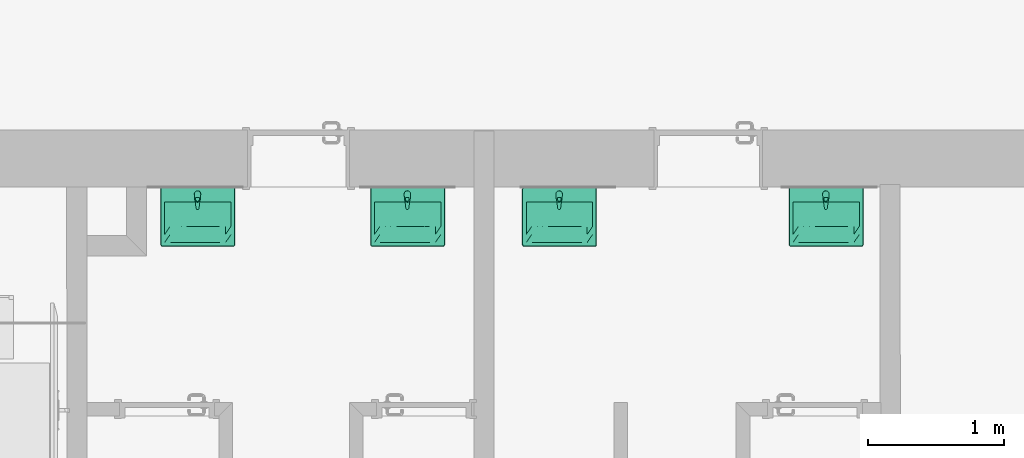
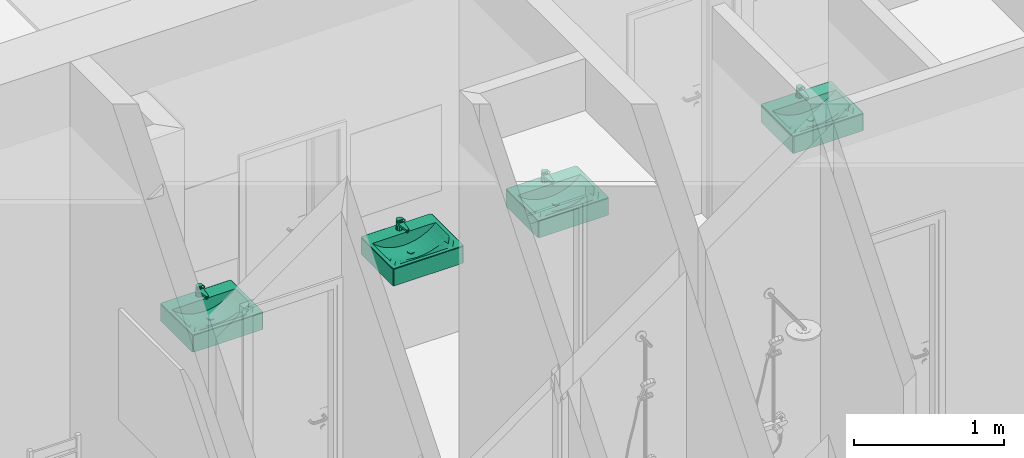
# One storey, part 119 of 194: 8 flow terminals.
"""IFC2X3 building model written with IfcOpenShell, lengths in millimetres."""

from ifc_helpers import new_model, entity, si_unit, converted_unit, derived_unit, money_unit, direction, frame, origin_with_axes, place, context, subcontext, project, spatial, open_shell, faceted_brep, surface_model, source, transform, mapped, type_object, element, save


model = new_model("IFC2X3")

# Units and contexts
model_context = context("Model", 3, precision=1e-05, world=origin_with_axes(), true_north=direction((0.0, 1.0)))
body_context = subcontext(model_context, "Body", "Model", "MODEL_VIEW")
ifc_project = project(units=[si_unit("LENGTHUNIT", "METRE", prefix="MILLI"), si_unit("AREAUNIT", "SQUARE_METRE"), si_unit("VOLUMEUNIT", "CUBIC_METRE"), converted_unit("PLANEANGLEUNIT", "DEGREE", entity("IfcPlaneAngleMeasure", 0.0174532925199), si_unit("PLANEANGLEUNIT", "RADIAN"), dimensions=[0, 0, 0, 0, 0, 0, 0]), si_unit("SOLIDANGLEUNIT", "STERADIAN"), money_unit("EUR"), converted_unit("TIMEUNIT", "Year", entity("IfcTimeMeasure", 31556926.0), si_unit("TIMEUNIT", "SECOND"), dimensions=[0, 0, 1, 0, 0, 0, 0]), si_unit("MASSUNIT", "GRAM", prefix="KILO"), si_unit("THERMODYNAMICTEMPERATUREUNIT", "DEGREE_CELSIUS"), si_unit("LUMINOUSINTENSITYUNIT", "LUMEN"), si_unit("ENERGYUNIT", "JOULE", prefix="MEGA"), derived_unit("THERMALCONDUCTANCEUNIT", [(si_unit("POWERUNIT", "WATT"), 1), (si_unit("LENGTHUNIT", "METRE"), -1), (si_unit("THERMODYNAMICTEMPERATUREUNIT", "KELVIN"), -1)]), derived_unit("SPECIFICHEATCAPACITYUNIT", [(si_unit("ENERGYUNIT", "JOULE"), 1), (si_unit("MASSUNIT", "GRAM", prefix="KILO"), -1), (si_unit("THERMODYNAMICTEMPERATUREUNIT", "KELVIN"), -1)]), derived_unit("MASSDENSITYUNIT", [(si_unit("MASSUNIT", "GRAM", prefix="KILO"), 1), (si_unit("VOLUMEUNIT", "CUBIC_METRE"), -1)])], contexts=[model_context])

# Site, building, storey
site_placement = place(None, origin_with_axes())
site = spatial("IfcSite", under=ifc_project, at=site_placement, Name="Site", CompositionType="ELEMENT")
building_placement = place(site_placement, origin_with_axes())
building = spatial("IfcBuilding", under=site, at=building_placement, Name="Building", CompositionType="ELEMENT")
storey_placement = place(building_placement, frame((0.0, 0.0, 3000.0), z_axis=(0.0, 0.0, 1.0), x_axis=(1.0, 0.0, 0.0)))
storey = spatial("IfcBuildingStorey", under=building, at=storey_placement, Name="2 KORRUS", CompositionType="ELEMENT", Elevation=3000.0)

# Flow terminals
sanitary_terminal_type_1 = type_object("IfcSanitaryTerminalType", Name="Basin 22", PredefinedType="NOTDEFINED")
shared_shape_1 = source(origin_with_axes(), body_context, "Body", "SurfaceModel", [
    faceted_brep([(260.0, -440.0, 860.0), (-260.0, -440.0, 860.0), (-267.5, -437.990381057, 860.0), (-272.990381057, -432.5, 860.0), (-275.0, -425.0, 860.0), (-275.0, -15.0, 860.0), (-272.990381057, -7.5, 860.0), (-267.5, -2.00961894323, 860.0), (-260.0, 0.0, 860.0), (260.0, 0.0, 860.0), (267.5, -2.00961894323, 860.0), (272.990381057, -7.5, 860.0), (275.0, -15.0, 860.0), (275.0, -425.0, 860.0), (272.990381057, -432.5, 860.0), (267.5, -437.990381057, 860.0), (-245.0, -410.0, 860.0), (245.0, -410.0, 860.0), (245.0, -110.0, 860.0), (-245.0, -110.0, 860.0), (259.999999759, -440.00000039, 995.0), (-259.999999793, -440.00000039, 995.0), (-267.500000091, -437.990381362, 995.0), (-272.990381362, -432.500000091, 995.0), (-275.00000039, -424.999999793, 995.0), (-275.00000039, -14.9999996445, 995.0), (-272.990381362, -7.50000027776, 995.0), (-267.500000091, -2.00961900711, 995.0), (-259.999999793, 2.02655670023e-08, 995.0), (259.999999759, 2.02655670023e-08, 995.0), (267.500000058, -2.00961900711, 995.0), (272.990381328, -7.50000027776, 995.0), (275.000000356, -14.9999996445, 995.0), (275.000000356, -424.999999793, 995.0), (272.990381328, -432.500000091, 995.0), (267.500000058, -437.990381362, 995.0), (-245.0, -410.0, 999.999999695), (245.0, -410.0, 999.999999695), (245.0, -110.0, 999.999999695), (-245.0, -110.0, 999.999999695), (259.977570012, -439.829629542, 996.294095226), (-259.977570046, -439.829629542, 996.294095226), (-267.411809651, -437.837631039, 996.294095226), (-272.837631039, -432.411809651, 996.294095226), (-274.829629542, -424.977570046, 996.294095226), (-274.829629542, -15.0224293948, 996.294095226), (-272.837631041, -7.58819072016, 996.294095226), (-267.411809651, -2.16236933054, 996.294095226), (-259.977570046, -0.170370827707, 996.294095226), (259.977570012, -0.170370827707, 996.294095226), (267.411809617, -2.16236933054, 996.294095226), (272.837631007, -7.58819072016, 996.294095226), (274.829629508, -15.0224293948, 996.294095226), (274.829629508, -424.977570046, 996.294095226), (272.837631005, -432.411809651, 996.294095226), (267.411809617, -437.837631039, 996.294095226), (-259.34173768, -4.99999712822, 999.999999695), (-264.911811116, -6.49249381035, 999.999999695), (-268.507506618, -10.0881893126, 999.999999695), (-270.000003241, -15.6582618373, 999.999999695), (-270.000003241, -424.34173768, 999.999999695), (-268.507506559, -429.911811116, 999.999999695), (-264.911811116, -433.507506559, 999.999999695), (-259.34173768, -435.000003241, 999.999999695), (259.341737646, -435.000003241, 999.999999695), (264.911811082, -433.507506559, 999.999999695), (268.507506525, -429.911811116, 999.999999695), (270.000003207, -424.34173768, 999.999999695), (270.000003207, -15.6582618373, 999.999999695), (268.507506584, -10.0881893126, 999.999999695), (264.911811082, -6.49249381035, 999.999999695), (259.341737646, -4.99999712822, 999.999999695), (259.807199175, -438.535534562, 998.535533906), (-259.807199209, -438.535534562, 998.535533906), (-266.741936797, -436.677377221, 998.535533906), (-271.677377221, -431.741936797, 998.535533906), (-273.535534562, -424.807199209, 998.535533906), (-273.535534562, -15.1928002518, 998.535533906), (-271.677377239, -8.2580635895, 998.535533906), (-266.741936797, -3.32262314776, 998.535533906), (-259.807199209, -1.46446580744, 998.535533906), (259.807199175, -1.46446580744, 998.535533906), (266.741936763, -3.32262314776, 998.535533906), (271.677377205, -8.2580635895, 998.535533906), (273.535534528, -15.1928002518, 998.535533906), (273.535534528, -424.807199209, 998.535533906), (271.677377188, -431.741936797, 998.535533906), (266.741936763, -436.677377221, 998.535533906), (-265.581682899, -5.33224184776, 999.829629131), (-259.512108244, -3.70590421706, 999.829629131), (-269.667758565, -9.41831751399, 999.829629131), (-271.294096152, -15.4878912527, 999.829629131), (-271.294096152, -424.512108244, 999.829629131), (-269.667758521, -430.581682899, 999.829629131), (-265.581682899, -434.667758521, 999.829629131), (-259.512108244, -436.294096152, 999.829629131), (259.51210821, -436.294096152, 999.829629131), (265.581682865, -434.667758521, 999.829629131), (269.667758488, -430.581682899, 999.829629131), (271.294096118, -424.512108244, 999.829629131), (271.294096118, -15.4878912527, 999.829629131), (269.667758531, -9.41831751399, 999.829629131), (265.581682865, -5.33224184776, 999.829629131), (259.51210821, -3.70590421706, 999.829629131)], [[[0, 1, 2, 3, 4, 5, 6, 7, 8, 9, 10, 11, 12, 13, 14, 15], [16, 17, 18, 19]], [[0, 20, 21, 1]], [[1, 21, 22, 2]], [[2, 22, 23, 3]], [[3, 23, 24, 4]], [[4, 24, 25, 5]], [[5, 25, 26, 6]], [[6, 26, 27, 7]], [[7, 27, 28, 8]], [[8, 28, 29, 9]], [[9, 29, 30, 10]], [[10, 30, 31, 11]], [[11, 31, 32, 12]], [[12, 32, 33, 13]], [[13, 33, 34, 14]], [[14, 34, 35, 15]], [[15, 35, 20, 0]], [[36, 37, 17, 16]], [[37, 38, 18, 17]], [[38, 39, 19, 18]], [[39, 36, 16, 19]], [[20, 40, 41, 21]], [[21, 41, 42, 22]], [[22, 42, 43, 23]], [[23, 43, 44, 24]], [[24, 44, 45, 25]], [[25, 45, 46, 26]], [[26, 46, 47, 27]], [[27, 47, 48, 28]], [[28, 48, 49, 29]], [[29, 49, 50, 30]], [[30, 50, 51, 31]], [[31, 51, 52, 32]], [[32, 52, 53, 33]], [[33, 53, 54, 34]], [[34, 54, 55, 35]], [[35, 55, 40, 20]], [[56, 57, 58, 59, 60, 61, 62, 63, 64, 65, 66, 67, 68, 69, 70, 71], [36, 39, 38, 37]], [[40, 72, 73, 41]], [[41, 73, 74, 42]], [[42, 74, 75, 43]], [[43, 75, 76, 44]], [[44, 76, 77, 45]], [[45, 77, 78, 46]], [[46, 78, 79, 47]], [[47, 79, 80, 48]], [[48, 80, 81, 49]], [[49, 81, 82, 50]], [[50, 82, 83, 51]], [[51, 83, 84, 52]], [[52, 84, 85, 53]], [[53, 85, 86, 54]], [[54, 86, 87, 55]], [[55, 87, 72, 40]], [[88, 57, 56, 89]], [[90, 58, 57, 88]], [[91, 59, 58, 90]], [[92, 60, 59, 91]], [[93, 61, 60, 92]], [[94, 62, 61, 93]], [[95, 63, 62, 94]], [[96, 64, 63, 95]], [[97, 65, 64, 96]], [[98, 66, 65, 97]], [[99, 67, 66, 98]], [[100, 68, 67, 99]], [[101, 69, 68, 100]], [[102, 70, 69, 101]], [[103, 71, 70, 102]], [[89, 56, 71, 103]], [[72, 96, 95, 73]], [[73, 95, 94, 74]], [[74, 94, 93, 75]], [[75, 93, 92, 76]], [[76, 92, 91, 77]], [[77, 91, 90, 78]], [[78, 90, 88, 79]], [[79, 88, 89, 80]], [[80, 89, 103, 81]], [[81, 103, 102, 82]], [[82, 102, 101, 83]], [[83, 101, 100, 84]], [[84, 100, 99, 85]], [[85, 99, 98, 86]], [[86, 98, 97, 87]], [[87, 97, 96, 72]]]),
    faceted_brep([(-245.0, -410.0, 860.0), (-245.0, -110.0, 860.0), (245.0, -110.0, 860.0), (245.0, -410.0, 860.0), (12.5, -221.641635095, 860.0), (21.6506350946, -212.491, 860.0), (25.0, -199.991, 860.0), (21.6506350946, -187.491, 860.0), (12.5, -178.340364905, 860.0), (0.0, -174.991, 860.0), (-12.5, -178.340364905, 860.0), (-21.6506350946, -187.491, 860.0), (-25.0, -199.991, 860.0), (-21.6506350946, -212.491, 860.0), (-12.5, -221.641635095, 860.0), (0.0, -224.991, 860.0), (-245.0, -290.0, 1000.0), (-245.0, -230.0, 1000.0), (-245.0, -170.0, 1000.0), (-245.0, -110.0, 1000.0), (-245.0, -410.0, 1000.0), (-245.0, -350.0, 1000.0), (122.5, -110.0, 922.129168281), (163.333333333, -110.0, 940.432026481), (204.166666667, -110.0, 965.689615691), (245.0, -110.0, 1000.0), (-204.166666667, -110.0, 965.689615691), (-163.333333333, -110.0, 940.432026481), (-122.5, -110.0, 922.129168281), (-81.6666666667, -110.0, 909.657569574), (-40.8333333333, -110.0, 902.389246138), (0.0, -110.0, 900.0), (40.8333333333, -110.0, 902.389246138), (81.6666666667, -110.0, 909.657569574), (245.0, -230.0, 1000.0), (245.0, -290.0, 1000.0), (245.0, -350.0, 1000.0), (245.0, -410.0, 1000.0), (245.0, -170.0, 1000.0), (-122.5, -410.0, 1000.0), (-163.333333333, -410.0, 1000.0), (-204.166666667, -410.0, 1000.0), (204.166666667, -410.0, 1000.0), (163.333333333, -410.0, 1000.0), (122.5, -410.0, 1000.0), (81.6666666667, -410.0, 1000.0), (40.8333333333, -410.0, 1000.0), (0.0, -410.0, 1000.0), (-40.8333333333, -410.0, 1000.0), (-81.6666666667, -410.0, 1000.0), (12.5, -221.641635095, 900.731401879), (21.6506350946, -212.491, 901.266825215), (25.0, -199.991, 901.462803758), (21.6506350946, -187.491, 901.266825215), (12.5, -178.340364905, 900.731401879), (0.0, -174.991, 900.0), (-12.5, -178.340364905, 900.731401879), (-21.6506350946, -187.491, 901.266825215), (-25.0, -199.991, 901.462803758), (-21.6506350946, -212.491, 901.266825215), (-12.5, -221.641635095, 900.731401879), (0.0, -224.991, 900.0), (-204.166666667, -230.0, 965.689615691), (-204.166666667, -170.0, 965.689615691), (-204.166666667, -350.0, 986.166287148), (-204.166666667, -290.0, 970.594758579), (163.333333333, -170.0, 940.432026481), (122.5, -170.0, 922.129168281), (204.166666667, -170.0, 965.689615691), (-163.333333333, -170.0, 940.432026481), (-122.5, -170.0, 922.129168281), (-81.6666666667, -170.0, 909.657569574), (-40.8333333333, -170.0, 902.389246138), (0.0, -170.0, 900.0), (40.8333333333, -170.0, 902.389246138), (81.6666666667, -170.0, 909.657569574), (204.166666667, -290.0, 970.594758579), (204.166666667, -350.0, 986.166287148), (204.166666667, -230.0, 965.689615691), (-122.5, -350.0, 966.539843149), (-163.333333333, -350.0, 975.056802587), (163.333333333, -350.0, 975.056802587), (122.5, -350.0, 966.539843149), (81.6666666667, -350.0, 960.520155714), (40.8333333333, -350.0, 956.933224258), (0.0, -350.0, 955.741663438), (-40.8333333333, -350.0, 956.933224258), (-81.6666666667, -350.0, 960.520155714), (0.0, -230.0, 900.0), (40.8333333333, -230.0, 902.389246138), (-40.8333333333, -230.0, 902.389246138), (-163.333333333, -230.0, 940.432026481), (163.333333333, -230.0, 940.432026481), (122.5, -230.0, 922.129168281), (-122.5, -230.0, 922.129168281), (-81.6666666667, -230.0, 909.657569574), (81.6666666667, -230.0, 909.657569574), (0.0, -290.0, 912.025576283), (-40.8333333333, -290.0, 914.19632473), (-163.333333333, -290.0, 948.375008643), (122.5, -290.0, 932.026603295), (163.333333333, -290.0, 948.375008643), (-122.5, -290.0, 932.026603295), (-81.6666666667, -290.0, 920.783680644), (40.8333333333, -290.0, 914.19632473), (81.6666666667, -290.0, 920.783680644)], [[[0, 1, 2, 3], [4, 5, 6, 7, 8, 9, 10, 11, 12, 13, 14, 15]], [[16, 17, 18, 19, 1, 0, 20, 21]], [[22, 23, 24, 25, 2, 1, 19, 26, 27, 28, 29, 30, 31, 32, 33]], [[34, 35, 36, 37, 3, 2, 25, 38]], [[39, 40, 41, 20, 0, 3, 37, 42, 43, 44, 45, 46, 47, 48, 49]], [[50, 51, 5, 4]], [[51, 52, 6, 5]], [[52, 53, 7, 6]], [[53, 54, 8, 7]], [[54, 55, 9, 8]], [[55, 56, 10, 9]], [[56, 57, 11, 10]], [[57, 58, 12, 11]], [[58, 59, 13, 12]], [[59, 60, 14, 13]], [[60, 61, 15, 14]], [[61, 50, 4, 15]], [[16, 62, 17]], [[62, 63, 18, 17]], [[63, 26, 19, 18]], [[20, 64, 21]], [[21, 65, 16]], [[66, 23, 22, 67]], [[68, 24, 23, 66]], [[38, 25, 24, 68]], [[69, 27, 26, 63]], [[70, 28, 27, 69]], [[71, 29, 28, 70]], [[72, 30, 29, 71]], [[73, 31, 30, 72]], [[74, 32, 31, 73]], [[75, 33, 32, 74]], [[67, 22, 33, 75]], [[76, 35, 34]], [[77, 36, 35]], [[42, 37, 36]], [[34, 38, 68, 78]], [[40, 39, 79]], [[41, 40, 80]], [[20, 41, 64]], [[43, 42, 77]], [[44, 43, 81]], [[45, 44, 82]], [[46, 45, 83]], [[47, 46, 84]], [[48, 47, 85]], [[49, 48, 86]], [[39, 49, 87]], [[54, 53, 52, 51, 50, 61, 88, 89, 74, 73, 55]], [[56, 55, 73, 72, 90, 88, 61, 60, 59, 58, 57]], [[16, 65, 62]], [[91, 69, 63, 62]], [[21, 64, 65]], [[92, 66, 67, 93]], [[78, 68, 66, 92]], [[94, 70, 69, 91]], [[95, 71, 70, 94]], [[90, 72, 71, 95]], [[96, 75, 74, 89]], [[93, 67, 75, 96]], [[77, 35, 76]], [[76, 34, 78]], [[42, 36, 77]], [[39, 87, 79]], [[40, 79, 80]], [[41, 80, 64]], [[43, 77, 81]], [[44, 81, 82]], [[45, 82, 83]], [[46, 83, 84]], [[47, 84, 85]], [[48, 85, 86]], [[49, 86, 87]], [[97, 89, 88]], [[98, 88, 90]], [[65, 91, 62]], [[64, 99, 65]], [[100, 92, 93]], [[101, 78, 92]], [[99, 94, 91]], [[102, 95, 94]], [[103, 90, 95]], [[104, 96, 89]], [[105, 93, 96]], [[81, 77, 76]], [[101, 76, 78]], [[79, 87, 103]], [[80, 79, 102]], [[64, 80, 99]], [[82, 81, 101]], [[83, 82, 100]], [[84, 83, 105]], [[85, 84, 104]], [[86, 85, 97]], [[87, 86, 98]], [[97, 104, 89]], [[98, 97, 88]], [[103, 98, 90]], [[65, 99, 91]], [[100, 101, 92]], [[105, 100, 93]], [[99, 102, 94]], [[102, 103, 95]], [[104, 105, 96]], [[81, 76, 101]], [[87, 98, 103]], [[79, 103, 102]], [[80, 102, 99]], [[82, 101, 100]], [[83, 100, 105]], [[84, 105, 104]], [[85, 104, 97]], [[86, 97, 98]]]),
    faceted_brep([(21.6506350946, -212.491, 900.0), (12.5, -221.641635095, 900.0), (0.0, -224.991, 900.0), (-12.5, -221.641635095, 900.0), (-21.6506350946, -212.491, 900.0), (-25.0, -199.991, 900.0), (-21.6506350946, -187.491, 900.0), (-12.5, -178.340364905, 900.0), (0.0, -174.991, 900.0), (12.5, -178.340364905, 900.0), (21.6506350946, -187.491, 900.0), (25.0, -199.991, 900.0), (21.6506350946, -212.491, 905.0), (12.5, -221.641635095, 905.0), (0.0, -224.991, 905.0), (-12.5, -221.641635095, 905.0), (-21.6506350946, -212.491, 905.0), (-25.0, -199.991, 905.0), (-21.6506350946, -187.491, 905.0), (-12.5, -178.340364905, 905.0), (0.0, -174.991, 905.0), (12.5, -178.340364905, 905.0), (21.6506350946, -187.491, 905.0), (25.0, -199.991, 905.0)], [[[0, 1, 2, 3, 4, 5, 6, 7, 8, 9, 10, 11]], [[1, 0, 12, 13]], [[2, 1, 13, 14]], [[3, 2, 14, 15]], [[4, 3, 15, 16]], [[5, 4, 16, 17]], [[6, 5, 17, 18]], [[7, 6, 18, 19]], [[8, 7, 19, 20]], [[9, 8, 20, 21]], [[10, 9, 21, 22]], [[11, 10, 22, 23]], [[0, 11, 23, 12]], [[12, 23, 22, 21, 20, 19, 18, 17, 16, 15, 14, 13]]]),
    surface_model("IfcShellBasedSurfaceModel", [(0.0, -199.991, 907.0), (0.0, -187.369094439, 906.49757372), (-6.31095278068, -189.06010914, 906.49757372), (6.31095278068, -189.06010914, 906.49757372), (0.0, -174.991, 905.0), (-12.5, -178.340364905, 905.0), (-10.9308908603, -193.680047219, 906.49757372), (10.9308908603, -193.680047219, 906.49757372), (12.5, -178.340364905, 905.0), (-21.6506350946, -187.491, 905.0), (-12.6219055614, -199.991, 906.49757372), (12.6219055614, -199.991, 906.49757372), (21.6506350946, -187.491, 905.0), (-25.0, -199.991, 905.0), (-10.9308908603, -206.301952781, 906.49757372), (10.9308908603, -206.301952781, 906.49757372), (25.0, -199.991, 905.0), (-21.6506350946, -212.491, 905.0), (-6.31095278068, -210.92189086, 906.49757372), (6.31095278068, -210.92189086, 906.49757372), (21.6506350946, -212.491, 905.0), (-12.5, -221.641635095, 905.0), (0.0, -212.612905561, 906.49757372), (12.5, -221.641635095, 905.0), (0.0, -224.991, 905.0)], [open_shell([[[0, 1, 2]], [[0, 3, 1]], [[2, 1, 4, 5]], [[0, 2, 6]], [[0, 7, 3]], [[1, 3, 8, 4]], [[6, 2, 5, 9]], [[0, 6, 10]], [[0, 11, 7]], [[3, 7, 12, 8]], [[10, 6, 9, 13]], [[0, 10, 14]], [[0, 15, 11]], [[7, 11, 16, 12]], [[14, 10, 13, 17]], [[0, 14, 18]], [[0, 19, 15]], [[11, 15, 20, 16]], [[18, 14, 17, 21]], [[0, 18, 22]], [[0, 22, 19]], [[15, 19, 23, 20]], [[22, 18, 21, 24]], [[19, 22, 24, 23]]])]),
])
for number, where, z_axis, x_axis in (
    (1, (75606.9851433, 40583.0649281, 40.0), (0.0, 0.0, 1.0), (1.0, 0.0, 0.0)),
    (2, (73639.1053116, 40583.0649281, 40.0), (0.0, 0.0, 1.0), (1.0, 0.0, 0.0)),
    (3, (72518.865952, 40583.0649281, 40.0), (0.0, 0.0, 1.0), (1.0, 0.0, 0.0)),
    (4, (70970.7730745, 40583.0649281, 40.0), (0.0, 0.0, 1.0), (1.0, 0.0, 0.0)),
):
    element("IfcFlowTerminal", number, at=place(storey_placement, frame(where, z_axis=z_axis, x_axis=x_axis)), inside=storey, type_object=sanitary_terminal_type_1, Name="Valamu", context=body_context, shape_type="MappedRepresentation", body=[
        mapped(shared_shape_1, transform((0.0, 0.0, 0.0))),
    ])
sanitary_terminal_type_2 = type_object("IfcSanitaryTerminalType", Name="Tap 22", PredefinedType="NOTDEFINED")
shared_shape_2 = source(origin_with_axes(), body_context, "Body", "Brep", [
    faceted_brep([(12.5, 21.6506350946, 1000.0), (0.0, 25.0, 1000.0), (0.0, 21.2019230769, 1075.96153846), (10.5873227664, 18.3377809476, 1076.50708934), (21.6506350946, 12.5, 1000.0), (25.0, 0.0, 1000.0), (21.6506350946, -12.5, 1000.0), (12.5, -21.6506350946, 1000.0), (0.0, -25.0, 1000.0), (-12.5, -21.6506350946, 1000.0), (-21.6506350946, -12.5, 1000.0), (-25.0, 0.0, 1000.0), (-21.6506350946, 12.5, 1000.0), (-12.5, 21.6506350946, 1000.0), (-10.5873227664, 18.3377809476, 1076.50708934), (-18.2735503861, 10.5502392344, 1077.99043062), (-21.0, 0.0, 1080.0), (-18.1003413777, -10.4502369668, 1081.99052133), (-10.4141059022, -18.037760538, 1083.43576391), (0.0, -20.8018867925, 1083.96226415), (10.4141059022, -18.037760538, 1083.43576391), (18.1003413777, -10.4502369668, 1081.99052133), (21.0, 0.0, 1080.0), (18.2735503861, 10.5502392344, 1077.99043062)], [[[0, 1, 2, 3]], [[0, 4, 5, 6, 7, 8, 9, 10, 11, 12, 13, 1]], [[1, 13, 14, 2]], [[3, 2, 14, 15, 16, 17, 18, 19, 20, 21, 22, 23]], [[4, 0, 3, 23]], [[5, 4, 23, 22]], [[6, 5, 22, 21]], [[7, 6, 21, 20]], [[8, 7, 20, 19]], [[9, 8, 19, 18]], [[10, 9, 18, 17]], [[11, 10, 17, 16]], [[12, 11, 16, 15]], [[13, 12, 15, 14]]]),
    faceted_brep([(9.0, -103.0, 1035.0), (7.79422863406, -98.5, 1035.0), (7.79422863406, -98.5, 1045.0), (9.0, -103.0, 1045.0), (7.79422863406, -107.5, 1035.0), (4.5, -110.794228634, 1035.0), (0.0, -112.0, 1035.0), (-4.5, -110.794228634, 1035.0), (-7.79422863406, -107.5, 1035.0), (-9.0, -103.0, 1035.0), (-7.79422863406, -98.5, 1035.0), (-4.5, -95.2057713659, 1035.0), (0.0, -94.0, 1035.0), (4.5, -95.2057713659, 1035.0), (4.5, -95.2057713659, 1045.0), (0.0, -94.0, 1045.0), (-4.5, -95.2057713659, 1045.0), (-7.79422863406, -98.5, 1045.0), (-9.0, -103.0, 1045.0), (-7.79422863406, -107.5, 1045.0), (-4.5, -110.794228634, 1045.0), (0.0, -112.0, 1045.0), (4.5, -110.794228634, 1045.0), (7.79422863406, -107.5, 1045.0)], [[[0, 1, 2, 3]], [[0, 4, 5, 6, 7, 8, 9, 10, 11, 12, 13, 1]], [[1, 13, 14, 2]], [[3, 2, 14, 15, 16, 17, 18, 19, 20, 21, 22, 23]], [[4, 0, 3, 23]], [[5, 4, 23, 22]], [[6, 5, 22, 21]], [[7, 6, 21, 20]], [[8, 7, 20, 19]], [[9, 8, 19, 18]], [[10, 9, 18, 17]], [[11, 10, 17, 16]], [[12, 11, 16, 15]], [[13, 12, 15, 14]]]),
    faceted_brep([(-12.8717176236, 20.2563038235, 1060.0), (-21.727805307, 10.1932053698, 1060.0), (-23.8054, -3.0499, 1060.0), (-10.911990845, -104.388371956, 1060.0), (-9.02887546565, -109.283194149, 1060.0), (-5.09332449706, -112.749726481, 1060.0), (3.62679860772e-05, -113.99996004, 1060.0), (5.09338878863, -112.749692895, 1060.0), (9.02891689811, -109.283134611, 1060.0), (10.912, -104.3883, 1060.0), (23.8053997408, -3.04990202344, 1060.0), (21.7278061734, 10.193203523, 1060.0), (12.8717193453, 20.2563027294, 1060.0), (1.01998896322e-06, 23.999978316, 1060.0), (11.0, 19.0525588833, 1060.0), (19.0525588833, 11.0, 1060.0), (22.0, 0.0, 1060.0), (19.0525588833, -11.0, 1060.0), (11.0, -19.0525588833, 1060.0), (0.0, -22.0, 1060.0), (-11.0, -19.0525588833, 1060.0), (-19.0525588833, -11.0, 1060.0), (-22.0, 0.0, 1060.0), (-19.0525588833, 11.0, 1060.0), (-11.0, 19.0525588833, 1060.0), (0.0, 22.0, 1060.0), (-21.727805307, 10.1932053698, 1045.0), (-12.8717176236, 20.2563038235, 1045.0), (-23.8054, -3.0499, 1045.0), (-10.911990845, -104.388371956, 1045.0), (-9.02887546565, -109.283194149, 1045.0), (-5.09332449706, -112.749726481, 1045.0), (3.62679860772e-05, -113.99996004, 1045.0), (5.09338878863, -112.749692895, 1045.0), (9.02891689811, -109.283134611, 1045.0), (10.912, -104.3883, 1045.0), (23.8053997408, -3.04990202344, 1045.0), (21.7278061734, 10.193203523, 1045.0), (12.8717193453, 20.2563027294, 1045.0), (1.01998896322e-06, 23.999978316, 1045.0), (11.375, 19.7020779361, 1045.0), (19.7020779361, 11.375, 1045.0), (22.75, 0.0, 1045.0), (19.7020779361, -11.375, 1045.0), (11.375, -19.7020779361, 1045.0), (0.0, -22.75, 1045.0), (-11.375, -19.7020779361, 1045.0), (-19.7020779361, -11.375, 1045.0), (-22.75, 0.0, 1045.0), (-19.7020779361, 11.375, 1045.0), (-11.375, 19.7020779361, 1045.0), (0.0, 22.75, 1045.0)], [[[0, 1, 2, 3, 4, 5, 6, 7, 8, 9, 10, 11, 12, 13], [14, 15, 16, 17, 18, 19, 20, 21, 22, 23, 24, 25]], [[26, 1, 0, 27]], [[28, 2, 1, 26]], [[29, 3, 2, 28]], [[30, 4, 3, 29]], [[31, 5, 4, 30]], [[32, 6, 5, 31]], [[33, 7, 6, 32]], [[34, 8, 7, 33]], [[35, 9, 8, 34]], [[36, 10, 9, 35]], [[37, 11, 10, 36]], [[38, 12, 11, 37]], [[39, 13, 12, 38]], [[27, 0, 13, 39]], [[40, 41, 15, 14]], [[41, 42, 16, 15]], [[42, 43, 17, 16]], [[43, 44, 18, 17]], [[44, 45, 19, 18]], [[20, 19, 45, 46]], [[21, 20, 46, 47]], [[22, 21, 47, 48]], [[23, 22, 48, 49]], [[24, 23, 49, 50]], [[50, 51, 25, 24]], [[51, 40, 14, 25]], [[32, 31, 30, 29, 28, 26, 27, 39, 38, 37, 36, 35, 34, 33], [44, 43, 42, 41, 40, 51, 50, 49, 48, 47, 46, 45]]]),
    faceted_brep([(23.893, -1.69256934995, 1080.32239416), (21.2964214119, 10.774718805, 1077.94767261), (21.2964214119, 11.5231672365, 1081.87702687), (23.893, -0.944120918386, 1084.25174843), (20.9459364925, -41.8367022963, 1087.96889568), (17.6631391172, -51.5143665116, 1089.81226029), (10.0614352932, -58.4637460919, 1091.13595164), (-0.000442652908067, -60.9856119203, 1091.61630703), (-10.0622123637, -58.4633294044, 1091.13587227), (-17.6636179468, -51.5136350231, 1089.81212096), (-20.946, -41.8358348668, 1087.96873045), (-23.893020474, -1.69229042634, 1080.32234103), (-21.2962910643, 10.7749674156, 1077.94762525), (-12.4716815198, 20.0911974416, 1076.17310525), (0.000142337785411, 23.5319645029, 1075.51772105), (12.4719245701, 20.0910518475, 1076.17313298), (14.0, -25.540802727, 1084.86491481), (-14.0, -25.540802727, 1084.86491481), (-14.0, -40.3564329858, 1087.68693962), (-12.124355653, -47.2328029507, 1088.99672437), (-7.0, -52.2666551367, 1089.95555336), (0.0, -54.1091729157, 1090.30650913), (7.0, -52.2666551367, 1089.95555336), (12.124355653, -47.2328029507, 1088.99672437), (14.0, -40.3564329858, 1087.68693962), (12.4719245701, 20.8395002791, 1080.10248725), (0.000142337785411, 24.2804129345, 1079.44707531), (-12.4716815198, 20.8396458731, 1080.10245951), (-21.2962910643, 11.5234158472, 1081.87697952), (-23.893020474, -0.943841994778, 1084.2516953), (-20.946, -41.0873864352, 1091.89808472), (-17.6636179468, -50.7651865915, 1093.74147522), (-10.0622123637, -57.7148809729, 1095.06522653), (-0.000442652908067, -60.2371634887, 1095.5456613), (10.0614352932, -57.7152976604, 1095.0653059), (17.6631391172, -50.7659180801, 1093.74161455), (20.9459364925, -41.0882538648, 1091.89824994), (14.0, -24.7923542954, 1088.79426907), (14.0, -39.6079845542, 1091.61629388), (12.124355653, -46.4843545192, 1092.92607864), (7.0, -51.5182067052, 1093.88490763), (0.0, -53.3607244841, 1094.23586339), (-7.0, -51.5182067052, 1093.88490763), (-12.124355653, -46.4843545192, 1092.92607864), (-14.0, -39.6079845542, 1091.61629388), (-14.0, -24.7923542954, 1088.79426907)], [[[0, 1, 2, 3]], [[0, 4, 5, 6, 7, 8, 9, 10, 11, 12, 13, 14, 15, 1], [16, 17, 18, 19, 20, 21, 22, 23, 24]], [[1, 15, 25, 2]], [[3, 2, 25, 26, 27, 28, 29, 30, 31, 32, 33, 34, 35, 36], [37, 38, 39, 40, 41, 42, 43, 44, 45]], [[4, 0, 3, 36]], [[5, 4, 36, 35]], [[6, 5, 35, 34]], [[7, 6, 34, 33]], [[8, 7, 33, 32]], [[9, 8, 32, 31]], [[10, 9, 31, 30]], [[11, 10, 30, 29]], [[12, 11, 29, 28]], [[13, 12, 28, 27]], [[14, 13, 27, 26]], [[15, 14, 26, 25]], [[17, 16, 37, 45]], [[18, 17, 45, 44]], [[19, 18, 44, 43]], [[20, 19, 43, 42]], [[21, 20, 42, 41]], [[22, 21, 41, 40]], [[23, 22, 40, 39]], [[24, 23, 39, 38]], [[16, 24, 38, 37]]]),
])
for number, where, z_axis, x_axis in (
    (5, (75604.7689488, 40530.5315342, 40.0), (0.0, 0.0, 1.0), (1.0, 0.0, 0.0)),
    (6, (73636.889117, 40530.5315342, 40.0), (0.0, 0.0, 1.0), (1.0, 0.0, 0.0)),
    (7, (72516.6497575, 40530.5315342, 40.0), (0.0, 0.0, 1.0), (1.0, 0.0, 0.0)),
    (8, (70968.5568799, 40530.5315342, 40.0), (0.0, 0.0, 1.0), (1.0, 0.0, 0.0)),
):
    element("IfcFlowTerminal", number, at=place(storey_placement, frame(where, z_axis=z_axis, x_axis=x_axis)), inside=storey, type_object=sanitary_terminal_type_2, Name="Valamu", context=body_context, shape_type="MappedRepresentation", body=[
        mapped(shared_shape_2, transform((0.0, 0.0, 0.0))),
    ])

save(model, "model.ifc")
